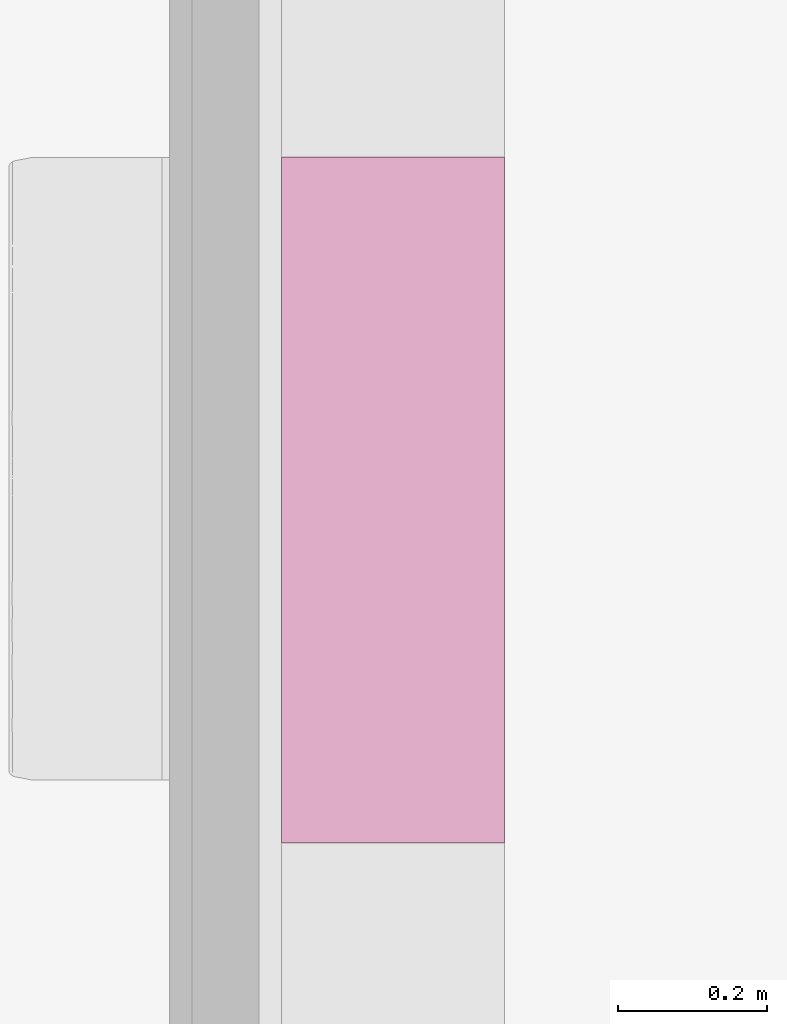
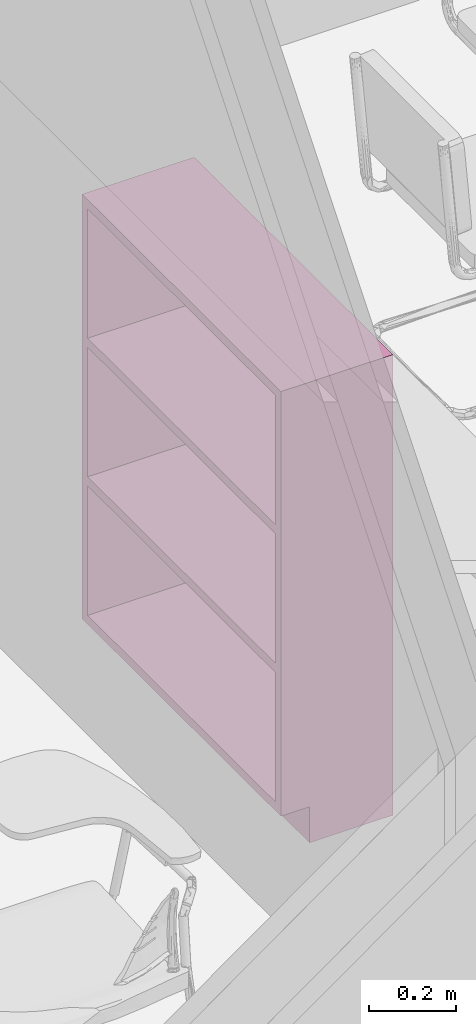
# One storey, part 75 of 155: 1 furnishing.
"""IFC2X3 building model written with IfcOpenShell, lengths in metres."""

from ifc_helpers import new_model, entity, si_unit, converted_unit, derived_unit, direction, frame, frame_2d, origin, origin_2d_with_axis, place, context, subcontext, project, spatial, polyline, rectangle, outline, extrude, source, transform, mapped, type_object, type_shapes, element, save


model = new_model("IFC2X3")

# Units and contexts
model_context = context("Model", 3, precision=1e-05, world=origin(), true_north=direction((6.12303176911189e-17, 1.0)))
body_context = subcontext(model_context, "Body", "Model", "MODEL_VIEW")
ifc_project = project(units=[si_unit("LENGTHUNIT", "METRE"), si_unit("AREAUNIT", "SQUARE_METRE"), si_unit("VOLUMEUNIT", "CUBIC_METRE"), converted_unit("PLANEANGLEUNIT", "DEGREE", entity("IfcRatioMeasure", 0.0174532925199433), si_unit("PLANEANGLEUNIT", "RADIAN"), dimensions=[0, 0, 0, 0, 0, 0, 0]), si_unit("MASSUNIT", "GRAM", prefix="KILO"), derived_unit("MASSDENSITYUNIT", [(si_unit("MASSUNIT", "GRAM", prefix="KILO"), 1), (si_unit("LENGTHUNIT", "METRE"), -3)]), si_unit("TIMEUNIT", "SECOND"), si_unit("FREQUENCYUNIT", "HERTZ"), si_unit("THERMODYNAMICTEMPERATUREUNIT", "DEGREE_CELSIUS"), derived_unit("THERMALTRANSMITTANCEUNIT", [(si_unit("MASSUNIT", "GRAM", prefix="KILO"), 1), (si_unit("THERMODYNAMICTEMPERATUREUNIT", "KELVIN"), -1), (si_unit("TIMEUNIT", "SECOND"), -3)]), derived_unit("VOLUMETRICFLOWRATEUNIT", [(si_unit("LENGTHUNIT", "METRE"), 3), (si_unit("TIMEUNIT", "SECOND"), -1)]), si_unit("ELECTRICCURRENTUNIT", "AMPERE"), si_unit("ELECTRICVOLTAGEUNIT", "VOLT"), si_unit("POWERUNIT", "WATT"), si_unit("FORCEUNIT", "NEWTON", prefix="KILO"), si_unit("ILLUMINANCEUNIT", "LUX"), si_unit("LUMINOUSFLUXUNIT", "LUMEN"), si_unit("LUMINOUSINTENSITYUNIT", "CANDELA"), derived_unit("USERDEFINED", [(si_unit("MASSUNIT", "GRAM", prefix="KILO"), -1), (si_unit("LENGTHUNIT", "METRE"), -2), (si_unit("TIMEUNIT", "SECOND"), 3), (si_unit("LUMINOUSFLUXUNIT", "LUMEN"), 1)]), derived_unit("LINEARVELOCITYUNIT", [(si_unit("LENGTHUNIT", "METRE"), 1), (si_unit("TIMEUNIT", "SECOND"), -1)]), si_unit("PRESSUREUNIT", "PASCAL"), derived_unit("USERDEFINED", [(si_unit("LENGTHUNIT", "METRE"), -2), (si_unit("MASSUNIT", "GRAM", prefix="KILO"), 1), (si_unit("TIMEUNIT", "SECOND"), -2)])], contexts=[model_context])

# Site, building, storey, space
site_placement = place(None, frame((26.9889013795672, -17.5624287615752, 0.0)))
site = spatial("IfcSite", under=ifc_project, at=site_placement, Name="Default", CompositionType="ELEMENT")
building_placement = place(site_placement, origin())
building = spatial("IfcBuilding", under=site, at=building_placement, Name="C. C. L. Monsenhor Antônio Sampaio", CompositionType="ELEMENT")
storey_placement = place(building_placement, frame((0.0, 0.0, 1.19999999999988)))
storey = spatial("IfcBuildingStorey", under=building, at=storey_placement, Name="Nível 1.2", CompositionType="ELEMENT", Elevation=1.19999999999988)
space_placement = place(storey_placement, origin())
space = spatial("IfcSpace", under=storey, at=space_placement, Name="79", CompositionType="ELEMENT", InteriorOrExteriorSpace="INTERNAL")

# Furnishing
furniture_type = type_object("IfcFurnitureType", Name="Shelving_Unit_-_Fully_Parametric_12010")
shared_shape = source(origin(), body_context, "Body", "SweptSolid", [
    extrude(rectangle(XDim=0.298954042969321, YDim=0.868105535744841, at=origin_2d_with_axis()), frame((0.0, 0.149477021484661, 0.883599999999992), z_axis=(0.0, 0.0, 1.0), x_axis=(0.0, -1.0, 0.0)), (0.0, 0.0, 1.0), 0.0254),
    extrude(rectangle(XDim=0.298954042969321, YDim=0.868105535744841, at=origin_2d_with_axis()), frame((0.0, 0.149477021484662, 0.492599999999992), z_axis=(0.0, 0.0, 1.0), x_axis=(0.0, -1.0, 0.0)), (0.0, 0.0, 1.0), 0.0254),
    extrude(rectangle(XDim=0.298954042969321, YDim=0.868105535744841, at=frame_2d((0.0, 2.77555756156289e-17), x_axis=(1.0, 0.0))), frame((0.0, 0.149477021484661, 1.27459999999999), z_axis=(0.0, 0.0, 1.0), x_axis=(0.0, -1.0, 0.0)), (0.0, 0.0, 1.0), 0.0253999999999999),
    extrude(rectangle(XDim=0.298954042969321, YDim=0.868105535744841, at=origin_2d_with_axis()), frame((0.0, 0.149477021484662, 0.101599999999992), z_axis=(0.0, 0.0, 1.0), x_axis=(0.0, -1.0, 0.0)), (0.0, 0.0, 1.0), 0.0254),
    extrude(rectangle(XDim=0.00635000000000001, YDim=0.86810553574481, at=frame_2d((1.69135538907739e-17, 0.0), x_axis=(1.0, 0.0))), frame((0.0, 0.295779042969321, 0.126999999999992), z_axis=(0.0, 0.0, 1.0), x_axis=(0.0, -1.0, 0.0)), (0.0, 0.0, 1.0), 1.1476),
    extrude(rectangle(XDim=0.015875, YDim=0.868105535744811, at=origin_2d_with_axis()), frame((0.0, 0.0841374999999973, 0.0), z_axis=(0.0, 0.0, 1.0), x_axis=(0.0, -1.0, 0.0)), (0.0, 0.0, 1.0), 0.101599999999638),
    extrude(outline(polyline([(-0.125051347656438, 0.365599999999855), (-0.125051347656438, -0.832799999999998), (0.17390269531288, -0.832799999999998), (0.17390269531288, 0.467200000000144), (-0.0488513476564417, 0.467200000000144), (-0.0488513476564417, 0.365599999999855), (-0.125051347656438, 0.365599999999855)])), frame((-0.459452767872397, 0.125051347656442, 0.467199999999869), z_axis=(-1.0, 0.0, 0.0), x_axis=(0.0, 1.0, 0.0)), (0.0, 0.0, -1.0), 0.0254),
    extrude(outline(polyline([(-0.125051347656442, 0.365599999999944), (-0.125051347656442, -0.832799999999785), (0.173902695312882, -0.832799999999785), (0.173902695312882, 0.467199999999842), (-0.0488513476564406, 0.467199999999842), (-0.0488513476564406, 0.365599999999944), (-0.125051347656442, 0.365599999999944)])), frame((0.434052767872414, 0.12505134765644, 0.467200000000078), z_axis=(-1.0, 0.0, 0.0), x_axis=(0.0, 1.0, 0.0)), (0.0, 0.0, -1.0), 0.0254),
])
type_shapes(furniture_type, [shared_shape])
furnishing_placement = place(space_placement, frame((-6.14055229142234, -37.8579461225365, 0.0), z_axis=(0.0, 0.0, 1.0), x_axis=(0.0, -1.0, 0.0)))
element("IfcFurnishingElement", 1, at=furnishing_placement, inside=space, type_object=furniture_type, Name="Shelving_Unit_-_Fully_Parametric_12010:Shelving_Unit_-_Fully_Parametric_12010", ObjectType="Shelving_Unit_-_Fully_Parametric_12010", context=body_context, shape_type="MappedRepresentation", body=[
    mapped(shared_shape, transform((0.0, 0.0, 0.0), scale=1.0)),
])

save(model, "model.ifc")
